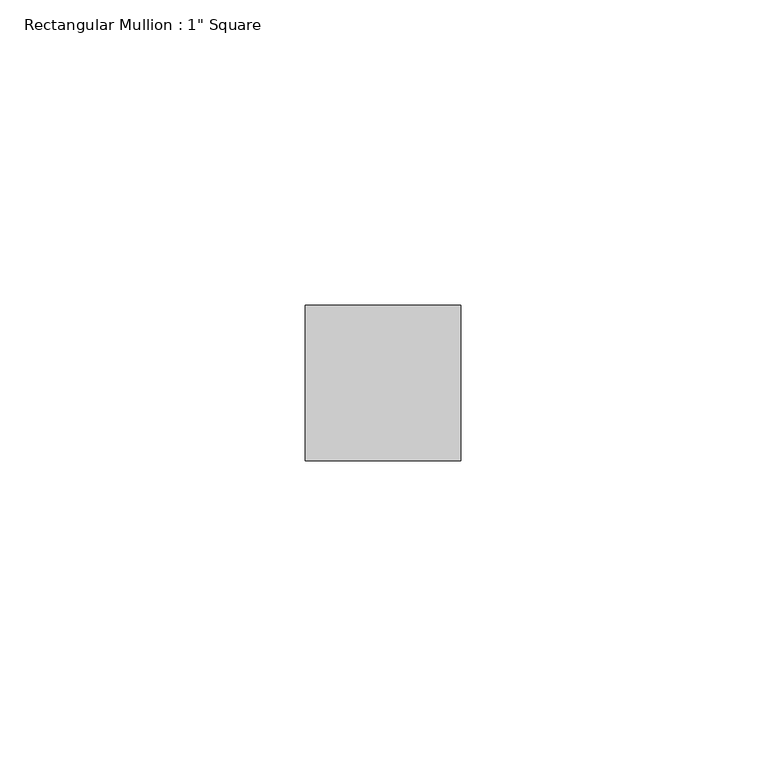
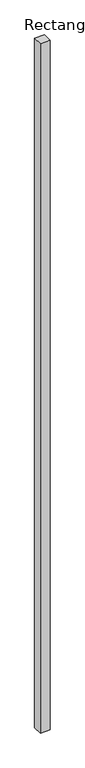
"""IFC4 building model written with IfcOpenShell, lengths in millimetres: member geometry."""

from ifc_helpers import new_model, si_unit, frame, origin, place, context, project, spatial, polyline, outline, extrude, source, transform, mapped, element, save


def member_3d776555(model_context):
    return source(origin(), model_context, "Body", "SweptSolid", [
        extrude(outline(polyline([(12.7, 12.7), (12.7, -12.7), (-12.7, -12.7), (-12.7, 12.7), (12.7, 12.7)])), frame((0.0, 0.0, -1901.6683635), z_axis=(0.0, 0.0, 1.0), x_axis=(1.0, 0.0, 0.0)), (0.0, 0.0, 1.0), 1901.6683635),
    ])


if __name__ == "__main__":
    model = new_model("IFC4")
    model_context = context("Model", 3, world=origin())
    ifc_project = project(units=[si_unit("LENGTHUNIT", "METRE", prefix="MILLI")], contexts=[model_context])
    site = spatial("IfcSite", under=ifc_project)
    building = spatial("IfcBuilding", under=site)
    placement = place(None, origin())
    member_shape = member_3d776555(model_context)
    element("IfcMember", 1, ObjectType="Rectangular Mullion : 1\" Square", at=placement, inside=building, context=model_context, shape_type="MappedRepresentation", body=[
        mapped(member_shape, transform((0.0, 0.0, 0.0), x_axis=(1.0, 0.0, 0.0), y_axis=(0.0, 1.0, 0.0), z_axis=(0.0, 0.0, 1.0))),
    ])
    save(model, "model.ifc")
